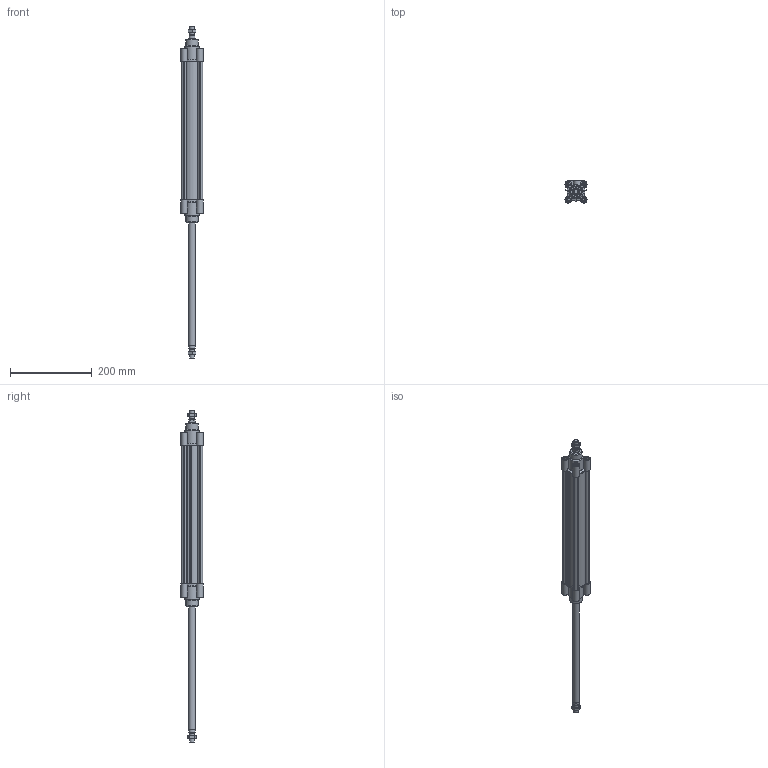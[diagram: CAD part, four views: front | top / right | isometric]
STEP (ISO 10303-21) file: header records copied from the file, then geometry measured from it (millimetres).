
FILE_DESCRIPTION((''),'2;1');
FILE_NAME('I:\Area Tecnica\Disegni\VARIE-3D\Componenti\ECOLIGHT\02\stp\139#_40_0300_02.iam.stp','2012-01-28T09:39:06',(''),(''),'Autodesk Inventor 2012','Autodesk Inventor 2012','');
FILE_SCHEMA(('AUTOMOTIVE_DESIGN { 1 0 10303 214 1 1 1 1 }'));
Length unit declared in the file: millimetre
Products named in the file (5): 139#_40_0300_02; CPL040_004-300; CPL040-001-01; CPL_40SP_0300; 1320_40_18F
Assembly tree (6 placements, depth 2):
  139#_40_0300_02
    CPL040_004-300
    CPL040-001-01  x2
    CPL_40SP_0300
    1320_40_18F  x2
Bounding box: 54 x 54 x 813 mm (x, y, z)
Volume: 561908.2 mm3; surface area: 268950.3 mm2
Topology: 6 solids, 6 shells, 351 faces, 860 edges, 564 vertices
Faces by surface type: plane 211, cylinder 98, cone 40, torus 2
Full cylindrical faces by diameter (mm): 5 x8, 5.5 x4, 8 x2, 10 x8, 10.5 x10, 10.8 x2, 11.6 x2, 12 x2, 15.5 x2, 16 x4, 30 x2, 35 x2, 40 x4
Entity records: 7104 total; most frequent: CARTESIAN_POINT 1295, DIRECTION 1162, ORIENTED_EDGE 1084, EDGE_CURVE 542, AXIS2_PLACEMENT_3D 413, VERTEX_POINT 380, VECTOR 336, LINE 336
